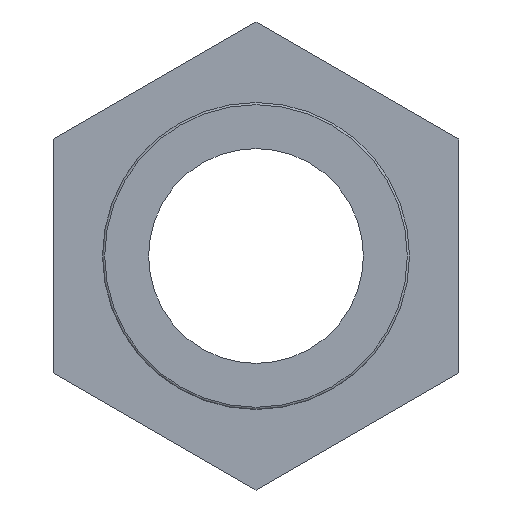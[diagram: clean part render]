
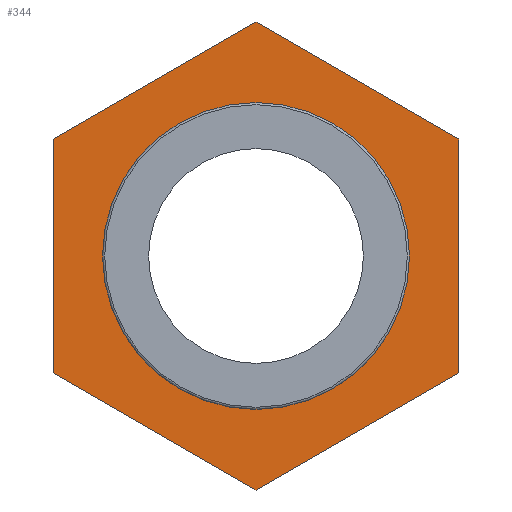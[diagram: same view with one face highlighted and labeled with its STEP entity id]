
A CAD part, left-side view. The second image highlights one B-rep face of the part: STEP entity #344.
In plain terms, the highlighted planar face has unit normal (-1, 0, 0).
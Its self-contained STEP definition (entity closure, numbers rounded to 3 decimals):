
#23=LINE('',#515,#41);
#27=LINE('',#522,#45);
#30=LINE('',#530,#48);
#34=LINE('',#537,#52);
#36=LINE('',#540,#54);
#38=LINE('',#543,#56);
#41=VECTOR('',#410,12.702);
#45=VECTOR('',#416,12.702);
#48=VECTOR('',#421,12.702);
#52=VECTOR('',#427,12.702);
#54=VECTOR('',#431,12.702);
#56=VECTOR('',#435,12.702);
#71=PLANE('',#389);
#93=FACE_BOUND('',#162,.T.);
#118=FACE_OUTER_BOUND('',#161,.T.);
#161=EDGE_LOOP('',(#312,#313,#314,#315,#316,#317));
#162=EDGE_LOOP('',(#318));
#165=CIRCLE('',#351,8.331);
#183=VERTEX_POINT('',#503);
#187=VERTEX_POINT('',#512);
#188=VERTEX_POINT('',#514);
#190=VERTEX_POINT('',#520);
#193=VERTEX_POINT('',#527);
#194=VERTEX_POINT('',#529);
#196=VERTEX_POINT('',#535);
#213=EDGE_CURVE('',#183,#183,#165,.T.);
#217=EDGE_CURVE('',#187,#188,#23,.T.);
#221=EDGE_CURVE('',#190,#187,#27,.T.);
#224=EDGE_CURVE('',#193,#194,#30,.T.);
#228=EDGE_CURVE('',#196,#193,#34,.T.);
#230=EDGE_CURVE('',#188,#196,#36,.T.);
#232=EDGE_CURVE('',#194,#190,#38,.T.);
#312=ORIENTED_EDGE('',*,*,#217,.F.);
#313=ORIENTED_EDGE('',*,*,#221,.F.);
#314=ORIENTED_EDGE('',*,*,#232,.F.);
#315=ORIENTED_EDGE('',*,*,#224,.F.);
#316=ORIENTED_EDGE('',*,*,#228,.F.);
#317=ORIENTED_EDGE('',*,*,#230,.F.);
#318=ORIENTED_EDGE('',*,*,#213,.F.);
#344=ADVANCED_FACE('',(#118,#93),#71,.T.);
#351=AXIS2_PLACEMENT_3D('',#504,#400,#401);
#389=AXIS2_PLACEMENT_3D('',#587,#494,#495);
#400=DIRECTION('center_axis',(-1.,0.,0.));
#401=DIRECTION('ref_axis',(0.,0.,1.));
#410=DIRECTION('',(0.,-0.866,-0.5));
#416=DIRECTION('',(0.,-0.866,0.5));
#421=DIRECTION('',(0.,0.866,0.5));
#427=DIRECTION('',(0.,0.866,-0.5));
#431=DIRECTION('',(0.,0.,-1.));
#435=DIRECTION('',(0.,0.,1.));
#494=DIRECTION('center_axis',(-1.,0.,0.));
#495=DIRECTION('ref_axis',(0.,0.,1.));
#503=CARTESIAN_POINT('',(13.,-8.331,0.));
#504=CARTESIAN_POINT('Origin',(13.,0.,0.));
#512=CARTESIAN_POINT('',(13.,0.,12.702));
#514=CARTESIAN_POINT('',(13.,-11.,6.351));
#515=CARTESIAN_POINT('',(13.,0.,12.702));
#520=CARTESIAN_POINT('',(13.,11.,6.351));
#522=CARTESIAN_POINT('',(13.,11.,6.351));
#527=CARTESIAN_POINT('',(13.,0.,-12.702));
#529=CARTESIAN_POINT('',(13.,11.,-6.351));
#530=CARTESIAN_POINT('',(13.,0.,-12.702));
#535=CARTESIAN_POINT('',(13.,-11.,-6.351));
#537=CARTESIAN_POINT('',(13.,-11.,-6.351));
#540=CARTESIAN_POINT('',(13.,-11.,6.351));
#543=CARTESIAN_POINT('',(13.,11.,-6.351));
#587=CARTESIAN_POINT('Origin',(13.,-8.331,0.));
